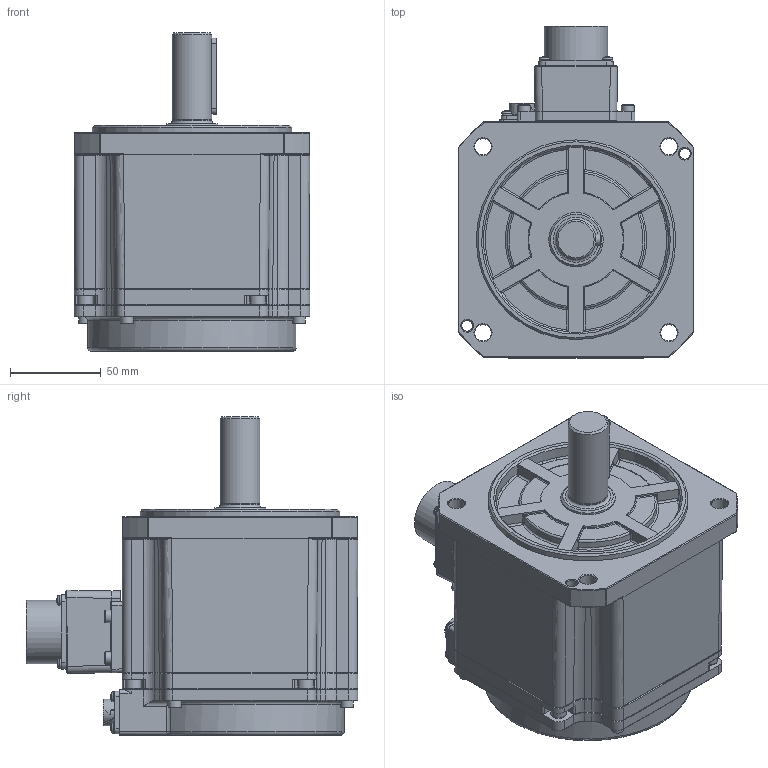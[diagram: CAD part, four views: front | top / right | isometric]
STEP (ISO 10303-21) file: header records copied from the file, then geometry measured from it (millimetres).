
FILE_DESCRIPTION((''),'2;1');
FILE_NAME('J:\_個人バックアップ\1790-保屋野\3D(R2AA13120DXH00)\R2AA13120DXH00M.stp','2015-02-02T15:27:05',('Hoyano-Chieko'),(''),'Autodesk Inventor 2011','Autodesk Inventor 2011','');
FILE_SCHEMA(('AUTOMOTIVE_DESIGN { 1 0 10303 214 1 1 1 1 }'));
Length unit declared in the file: millimetre
Products named in the file (1): Part1
Bounding box: 130 x 182.88 x 175.5 mm (x, y, z)
Volume: 1803751.2 mm3; surface area: 122637 mm2
Topology: 1 solids, 27 shells, 1127 faces, 2760 edges, 1669 vertices
Faces by surface type: plane 398, cylinder 303, cone 162, torus 114, bspline 100, sphere 50
Full cylindrical faces by diameter (mm): 0.762 x10, 3 x14, 3.1 x4, 3.2 x4, 4 x9, 4.5 x8, 5 x4, 5.5 x4, 5.6 x8, 6 x2, 7 x8, 8 x4, 8.5 x4, 9 x4, 11.6 x1, 21.86 x1, 22 x1, 30 x1, 33 x1, 35 x1, 36.5 x1, 40.9 x1, 110 x1
Entity records: 36289 total; most frequent: CARTESIAN_POINT 11722, DIRECTION 5060, ORIENTED_EDGE 4952, EDGE_CURVE 2476, AXIS2_PLACEMENT_3D 2048, VERTEX_POINT 1600, EDGE_LOOP 1380, FACE_OUTER_BOUND 1127
